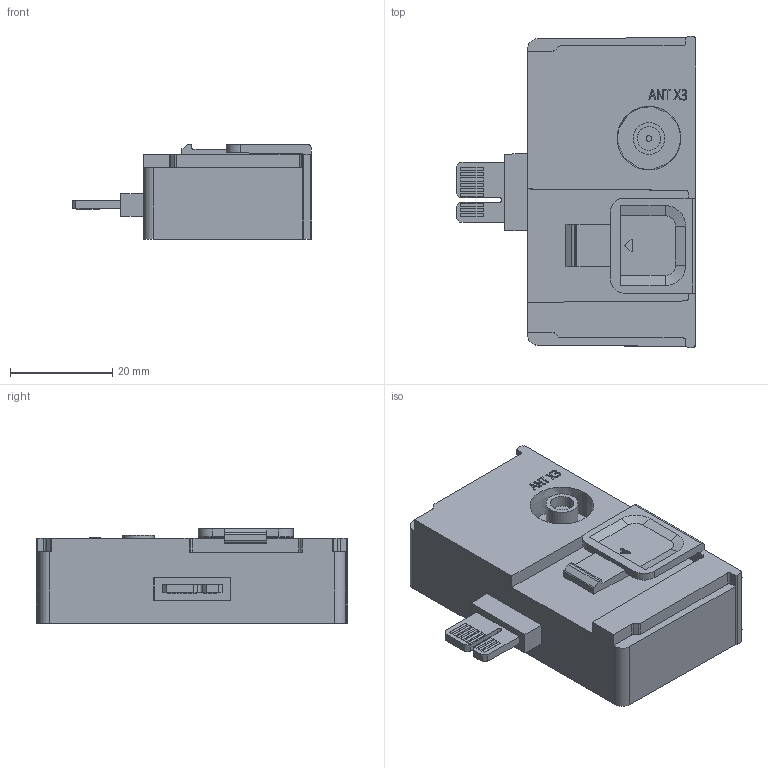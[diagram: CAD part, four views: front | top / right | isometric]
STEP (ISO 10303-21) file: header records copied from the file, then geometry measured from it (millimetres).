
FILE_DESCRIPTION(/* description */ (''),/* implementation_level */ '2;1');
FILE_NAME(/* name */ '6AV6648-1CM01-3AX0_3d.stp',/* time_stamp */ '2025-03-07T03:41:21+01:00',/* author */ (''),/* organization */ (''),/* preprocessor_version */ 'ST-DEVELOPER v18.102',/* originating_system */ 'SIEMENS PLM Software NX 2023',/* authorisation */ '');
FILE_SCHEMA (('AUTOMOTIVE_DESIGN { 1 0 10303 214 3 1 1 1 }'));
Length unit declared in the file: millimetre
Products named in the file (3): A5E54383665A_RS-AA_001_2-labeling; A5E54381670A_RS-AA_001_1-box; A5E54383663A_RS-AA_001_1-CAx_6AV66481CM013AX0
Assembly tree (2 placements, depth 2):
  A5E54383663A_RS-AA_001_1-CAx_6AV66481CM013AX0
    A5E54381670A_RS-AA_001_1-box
    A5E54383665A_RS-AA_001_2-labeling
Bounding box: 47 x 60.96 x 18.7 mm (x, y, z)
Volume: 31530.6 mm3; surface area: 9033 mm2
Topology: 24 solids, 24 shells, 500 faces, 1257 edges, 838 vertices
Faces by surface type: plane 391, extrusion 85, cylinder 19, bspline 5
Full cylindrical faces by diameter (mm): 1.105 x1, 4.6 x1, 6.24 x1
Entity records: 18461 total; most frequent: CARTESIAN_POINT 6147, ORIENTED_EDGE 2498, DIRECTION 1609, EDGE_CURVE 1249, VERTEX_POINT 836, VECTOR 759, LINE 674, B_SPLINE_CURVE_WITH_KNOTS 607
